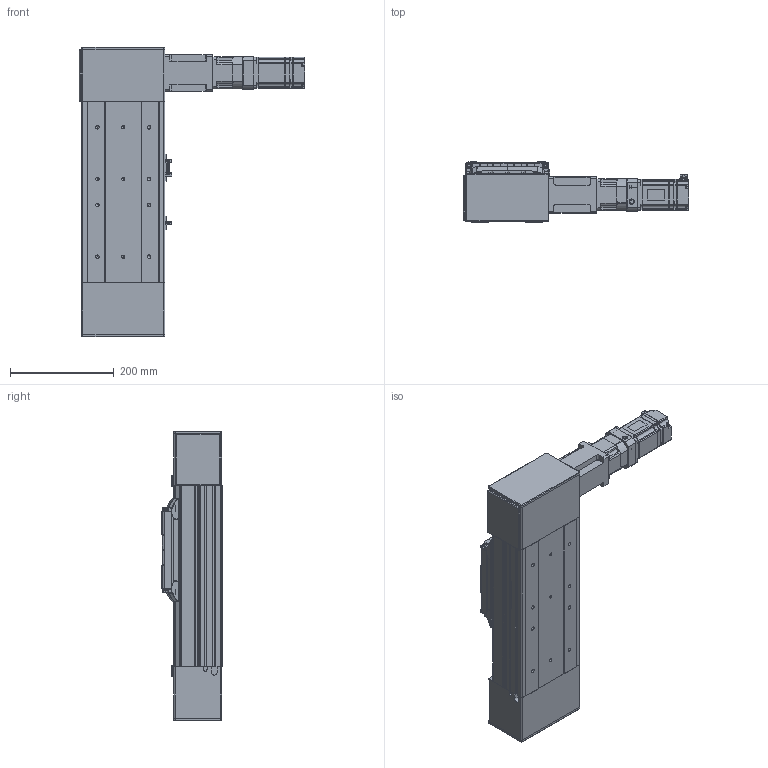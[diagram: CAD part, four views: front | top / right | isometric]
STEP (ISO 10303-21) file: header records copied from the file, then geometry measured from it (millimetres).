
FILE_DESCRIPTION (( 'STEP AP203' ), '1' );
FILE_NAME ('PCB160SRN-0000-ST100-40NR00-N-I3R.STEP', '2015-10-22T00:18:24', ( '' ), ( '' ), 'SwSTEP 2.0', 'SolidWorks 2012', '' );
FILE_SCHEMA (( 'CONFIG_CONTROL_DESIGN' ));
Products named in the file (14): jc42c; sgmjv_04a_a21; PCB160SRN-0000-ST100-40NR00-N-I3R; EE_SX672; PCB160-Carrier Assy; MOTOR BRACKET 62(SHAFT TYPE); PGX62-H-1_3; PCB160-Carrier UPPER COVER; PCB160-Sensor Dog; PCB160-Carrier; PCB160-Carrier END COVER; PCB160-Drive Pulley Block S; PCB160-Idler Pulley Block; PCB160-100ST BASE
Assembly tree (16 placements, depth 3):
  PCB160SRN-0000-ST100-40NR00-N-I3R
    PCB160-100ST BASE
    PCB160-Drive Pulley Block S
    PCB160-Idler Pulley Block
    PCB160-Carrier Assy
      PCB160-Carrier
      PCB160-Sensor Dog
      PCB160-Carrier END COVER  x2
      PCB160-Carrier UPPER COVER
    EE_SX672  x3
    MOTOR BRACKET 62(SHAFT TYPE)
    PGX62-H-1_3
    sgmjv_04a_a21
    jc42c
Bounding box: 435.6 x 116 x 560 mm (x, y, z)
Volume: 8676122.2 mm3; surface area: 1004800.9 mm2
Topology: 40 solids, 41 shells, 3336 faces, 8891 edges, 5665 vertices
Faces by surface type: plane 1861, cylinder 1056, cone 233, bspline 110, sphere 40, torus 36
Entity records: 94620 total; most frequent: CARTESIAN_POINT 22380, ORIENTED_EDGE 14964, DIRECTION 14401, EDGE_CURVE 7507, VERTEX_POINT 4853, LINE 4823, VECTOR 4823, AXIS2_PLACEMENT_3D 4789
